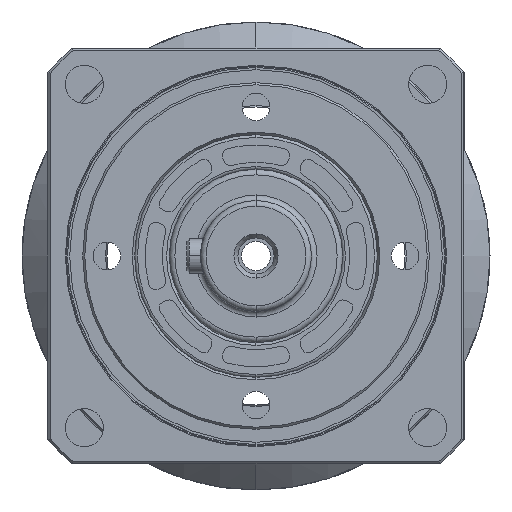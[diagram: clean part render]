
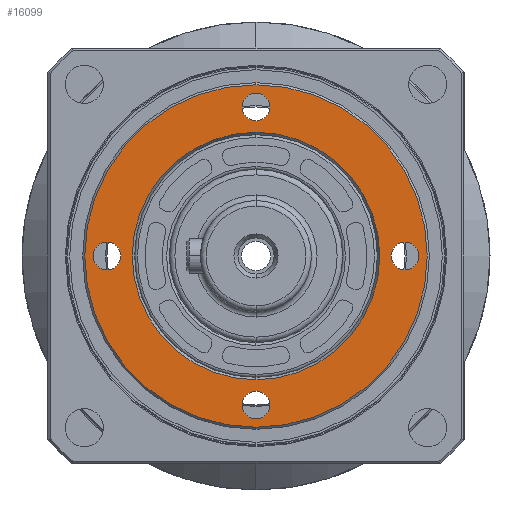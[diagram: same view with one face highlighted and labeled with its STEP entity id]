
A CAD part, left-side view. The second image highlights one B-rep face of the part: STEP entity #16099.
In plain terms, the highlighted planar face has unit normal (-1, 0, 0).
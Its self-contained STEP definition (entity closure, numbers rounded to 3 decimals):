
#303 = AXIS2_PLACEMENT_3D ( 'NONE', #8161, #8162, #8174 ) ;
#372 = CIRCLE ( 'NONE', #9525, 17.846 ) ;
#386 = CIRCLE ( 'NONE', #9522, 2. ) ;
#604 = CIRCLE ( 'NONE', #9520, 2. ) ;
#641 = CIRCLE ( 'NONE', #9518, 2. ) ;
#2564 = DIRECTION ( 'NONE',  ( 0., 0., 1. ) ) ;
#2565 = DIRECTION ( 'NONE',  ( -1., 0., 0. ) ) ;
#2566 = CARTESIAN_POINT ( 'NONE',  ( 93., -21.5, 0. ) ) ;
#2894 = CARTESIAN_POINT ( 'NONE',  ( 93., 0., 19.5 ) ) ;
#3933 = EDGE_LOOP ( 'NONE', ( #7291, #7292 ) ) ;
#3991 = EDGE_LOOP ( 'NONE', ( #7287, #7282 ) ) ;
#4007 = EDGE_LOOP ( 'NONE', ( #7295, #7296 ) ) ;
#4055 = EDGE_LOOP ( 'NONE', ( #7293, #7288 ) ) ;
#4056 = EDGE_LOOP ( 'NONE', ( #7289, #7290 ) ) ;
#4057 = EDGE_LOOP ( 'NONE', ( #7285, #7286 ) ) ;
#5046 = EDGE_CURVE ( 'NONE', #15669, #15667, #14534, .T. ) ;
#5047 = EDGE_CURVE ( 'NONE', #15681, #15721, #14531, .T. ) ;
#5113 = EDGE_CURVE ( 'NONE', #15123, #15440, #11137, .T. ) ;
#5118 = EDGE_CURVE ( 'NONE', #15690, #15656, #11157, .T. ) ;
#5139 = EDGE_CURVE ( 'NONE', #15721, #15681, #11151, .T. ) ;
#5140 = EDGE_CURVE ( 'NONE', #15654, #15438, #11067, .T. ) ;
#5145 = EDGE_CURVE ( 'NONE', #15667, #15669, #11032, .T. ) ;
#5230 = EDGE_CURVE ( 'NONE', #15438, #15654, #372, .T. ) ;
#5233 = EDGE_CURVE ( 'NONE', #15656, #15690, #386, .T. ) ;
#5235 = EDGE_CURVE ( 'NONE', #15578, #15212, #604, .T. ) ;
#5237 = EDGE_CURVE ( 'NONE', #15440, #15123, #641, .T. ) ;
#6100 = CIRCLE ( 'NONE', #12571, 2. ) ;
#7282 = ORIENTED_EDGE ( 'NONE', *, *, #5140, .F. ) ;
#7285 = ORIENTED_EDGE ( 'NONE', *, *, #5046, .T. ) ;
#7286 = ORIENTED_EDGE ( 'NONE', *, *, #5145, .T. ) ;
#7287 = ORIENTED_EDGE ( 'NONE', *, *, #5230, .F. ) ;
#7288 = ORIENTED_EDGE ( 'NONE', *, *, #5113, .F. ) ;
#7289 = ORIENTED_EDGE ( 'NONE', *, *, #5235, .F. ) ;
#7290 = ORIENTED_EDGE ( 'NONE', *, *, #10984, .F. ) ;
#7291 = ORIENTED_EDGE ( 'NONE', *, *, #5233, .F. ) ;
#7292 = ORIENTED_EDGE ( 'NONE', *, *, #5118, .F. ) ;
#7293 = ORIENTED_EDGE ( 'NONE', *, *, #5237, .F. ) ;
#7295 = ORIENTED_EDGE ( 'NONE', *, *, #5047, .F. ) ;
#7296 = ORIENTED_EDGE ( 'NONE', *, *, #5139, .F. ) ;
#8161 = CARTESIAN_POINT ( 'NONE',  ( 93., 25., 0. ) ) ;
#8162 = DIRECTION ( 'NONE',  ( 1., 0., 0. ) ) ;
#8169 = PLANE ( 'NONE',  #303 ) ;
#8174 = DIRECTION ( 'NONE',  ( 0., 0., -1. ) ) ;
#8385 = CARTESIAN_POINT ( 'NONE',  ( 93., -21.5, -2. ) ) ;
#8668 = CARTESIAN_POINT ( 'NONE',  ( 93., 0., 23.5 ) ) ;
#8671 = CARTESIAN_POINT ( 'NONE',  ( 93., 0., 17.846 ) ) ;
#8913 = CARTESIAN_POINT ( 'NONE',  ( 93., 0., -23.5 ) ) ;
#8937 = CARTESIAN_POINT ( 'NONE',  ( 93., 21.5, 2. ) ) ;
#8967 = CARTESIAN_POINT ( 'NONE',  ( 93., -21.5, 2. ) ) ;
#8990 = CARTESIAN_POINT ( 'NONE',  ( 93., 0., -24.7 ) ) ;
#8991 = CARTESIAN_POINT ( 'NONE',  ( 93., 0., -17.846 ) ) ;
#8993 = CARTESIAN_POINT ( 'NONE',  ( 93., 0., -19.5 ) ) ;
#9008 = CARTESIAN_POINT ( 'NONE',  ( 93., 0., 24.7 ) ) ;
#9059 = CARTESIAN_POINT ( 'NONE',  ( 93., 21.5, -2. ) ) ;
#9518 = AXIS2_PLACEMENT_3D ( 'NONE', #16156, #16153, #16159 ) ;
#9520 = AXIS2_PLACEMENT_3D ( 'NONE', #16163, #16162, #16165 ) ;
#9522 = AXIS2_PLACEMENT_3D ( 'NONE', #16175, #16174, #16171 ) ;
#9525 = AXIS2_PLACEMENT_3D ( 'NONE', #16261, #16262, #16191 ) ;
#9561 = AXIS2_PLACEMENT_3D ( 'NONE', #19912, #19919, #19917 ) ;
#9562 = AXIS2_PLACEMENT_3D ( 'NONE', #19937, #19939, #19936 ) ;
#9563 = AXIS2_PLACEMENT_3D ( 'NONE', #19482, #19485, #19486 ) ;
#9578 = AXIS2_PLACEMENT_3D ( 'NONE', #19511, #19518, #19523 ) ;
#9579 = AXIS2_PLACEMENT_3D ( 'NONE', #19948, #19949, #19951 ) ;
#9605 = AXIS2_PLACEMENT_3D ( 'NONE', #19417, #19380, #19379 ) ;
#9608 = AXIS2_PLACEMENT_3D ( 'NONE', #19421, #19420, #19419 ) ;
#10984 = EDGE_CURVE ( 'NONE', #15212, #15578, #6100, .T. ) ;
#11032 = CIRCLE ( 'NONE', #9561, 24.7 ) ;
#11067 = CIRCLE ( 'NONE', #9562, 17.846 ) ;
#11137 = CIRCLE ( 'NONE', #9578, 2. ) ;
#11151 = CIRCLE ( 'NONE', #9563, 2. ) ;
#11157 = CIRCLE ( 'NONE', #9579, 2. ) ;
#12571 = AXIS2_PLACEMENT_3D ( 'NONE', #2566, #2565, #2564 ) ;
#14531 = CIRCLE ( 'NONE', #9605, 2. ) ;
#14534 = CIRCLE ( 'NONE', #9608, 24.7 ) ;
#15123 = VERTEX_POINT ( 'NONE', #2894 ) ;
#15212 = VERTEX_POINT ( 'NONE', #8385 ) ;
#15438 = VERTEX_POINT ( 'NONE', #8671 ) ;
#15440 = VERTEX_POINT ( 'NONE', #8668 ) ;
#15578 = VERTEX_POINT ( 'NONE', #8967 ) ;
#15654 = VERTEX_POINT ( 'NONE', #8991 ) ;
#15656 = VERTEX_POINT ( 'NONE', #8993 ) ;
#15667 = VERTEX_POINT ( 'NONE', #9008 ) ;
#15669 = VERTEX_POINT ( 'NONE', #8990 ) ;
#15681 = VERTEX_POINT ( 'NONE', #8937 ) ;
#15690 = VERTEX_POINT ( 'NONE', #8913 ) ;
#15721 = VERTEX_POINT ( 'NONE', #9059 ) ;
#16099 = ADVANCED_FACE ( 'NONE', ( #20067, #20065, #20064, #20069, #20066, #20073 ), #8169, .F. ) ;
#16153 = DIRECTION ( 'NONE',  ( -1., 0., 0. ) ) ;
#16156 = CARTESIAN_POINT ( 'NONE',  ( 93., 0., 21.5 ) ) ;
#16159 = DIRECTION ( 'NONE',  ( 0., 0., 1. ) ) ;
#16162 = DIRECTION ( 'NONE',  ( -1., 0., 0. ) ) ;
#16163 = CARTESIAN_POINT ( 'NONE',  ( 93., -21.5, 0. ) ) ;
#16165 = DIRECTION ( 'NONE',  ( 0., 0., 1. ) ) ;
#16171 = DIRECTION ( 'NONE',  ( 0., 0., 1. ) ) ;
#16174 = DIRECTION ( 'NONE',  ( -1., 0., 0. ) ) ;
#16175 = CARTESIAN_POINT ( 'NONE',  ( 93., 0., -21.5 ) ) ;
#16191 = DIRECTION ( 'NONE',  ( 0., 0., 1. ) ) ;
#16261 = CARTESIAN_POINT ( 'NONE',  ( 93., 0., 0. ) ) ;
#16262 = DIRECTION ( 'NONE',  ( -1., 0., 0. ) ) ;
#19379 = DIRECTION ( 'NONE',  ( 0., 0., 1. ) ) ;
#19380 = DIRECTION ( 'NONE',  ( -1., 0., 0. ) ) ;
#19417 = CARTESIAN_POINT ( 'NONE',  ( 93., 21.5, 0. ) ) ;
#19419 = DIRECTION ( 'NONE',  ( 0., 0., -1. ) ) ;
#19420 = DIRECTION ( 'NONE',  ( -1., 0., 0. ) ) ;
#19421 = CARTESIAN_POINT ( 'NONE',  ( 93., 0., 0. ) ) ;
#19482 = CARTESIAN_POINT ( 'NONE',  ( 93., 21.5, 0. ) ) ;
#19485 = DIRECTION ( 'NONE',  ( -1., 0., 0. ) ) ;
#19486 = DIRECTION ( 'NONE',  ( 0., 0., 1. ) ) ;
#19511 = CARTESIAN_POINT ( 'NONE',  ( 93., 0., 21.5 ) ) ;
#19518 = DIRECTION ( 'NONE',  ( -1., 0., 0. ) ) ;
#19523 = DIRECTION ( 'NONE',  ( 0., 0., 1. ) ) ;
#19912 = CARTESIAN_POINT ( 'NONE',  ( 93., 0., 0. ) ) ;
#19917 = DIRECTION ( 'NONE',  ( 0., 0., -1. ) ) ;
#19919 = DIRECTION ( 'NONE',  ( -1., 0., 0. ) ) ;
#19936 = DIRECTION ( 'NONE',  ( 0., 0., 1. ) ) ;
#19937 = CARTESIAN_POINT ( 'NONE',  ( 93., 0., 0. ) ) ;
#19939 = DIRECTION ( 'NONE',  ( -1., 0., 0. ) ) ;
#19948 = CARTESIAN_POINT ( 'NONE',  ( 93., 0., -21.5 ) ) ;
#19949 = DIRECTION ( 'NONE',  ( -1., 0., 0. ) ) ;
#19951 = DIRECTION ( 'NONE',  ( 0., 0., 1. ) ) ;
#20064 = FACE_BOUND ( 'NONE', #4055, .T. ) ;
#20065 = FACE_BOUND ( 'NONE', #3933, .T. ) ;
#20066 = FACE_OUTER_BOUND ( 'NONE', #4057, .T. ) ;
#20067 = FACE_BOUND ( 'NONE', #4007, .T. ) ;
#20069 = FACE_BOUND ( 'NONE', #4056, .T. ) ;
#20073 = FACE_BOUND ( 'NONE', #3991, .T. ) ;
